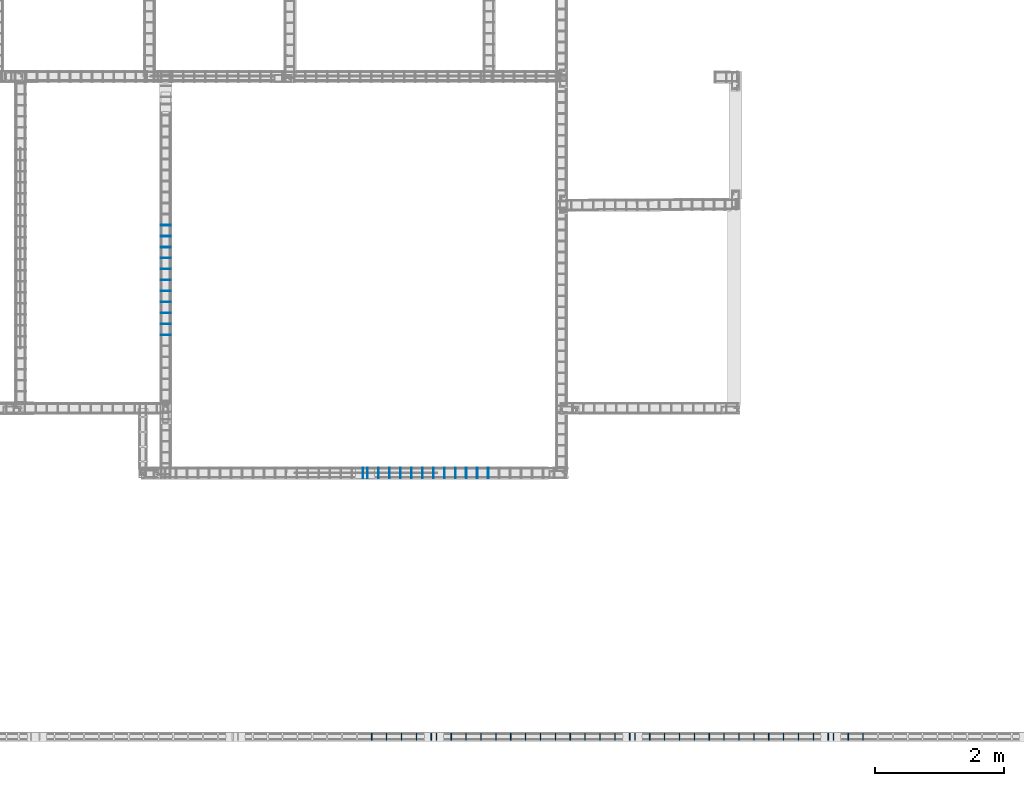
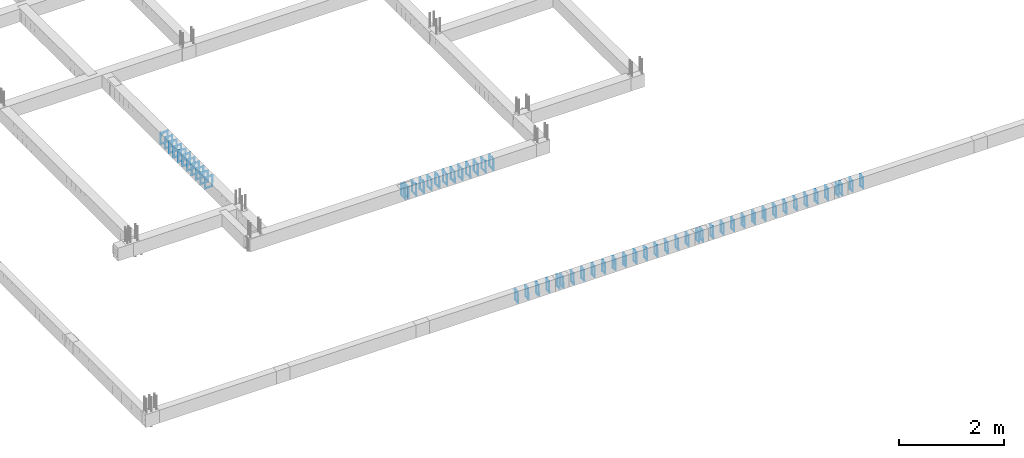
# One storey, part 22 of 150: 60 reinforcing bars.
"""IFC4 building model written with IfcOpenShell, lengths in centimetres."""

from ifc_helpers import new_model, entity, si_unit, derived_unit, frame, origin_with_axes, place, context, project, spatial, source, transform, mapped, element, save


model = new_model("IFC4")

# Units and contexts
model_context = context("Model", 3, precision=1e-05, world=origin_with_axes(), identifier="Body")
ifc_project = project(units=[si_unit("LENGTHUNIT", "METRE", prefix="CENTI"), si_unit("VOLUMEUNIT", "CUBIC_METRE"), si_unit("AREAUNIT", "SQUARE_METRE"), si_unit("POWERUNIT", "WATT"), si_unit("LUMINOUSFLUXUNIT", "LUMEN"), si_unit("ELECTRICCURRENTUNIT", "AMPERE"), si_unit("PRESSUREUNIT", "PASCAL", prefix="KILO"), si_unit("MASSUNIT", "GRAM", prefix="KILO"), si_unit("PLANEANGLEUNIT", "RADIAN"), derived_unit("VOLUMETRICFLOWRATEUNIT", [(si_unit("LENGTHUNIT", "METRE"), 3), (si_unit("TIMEUNIT", "SECOND"), -1)])], contexts=[model_context])

# Site, building, storey
site_placement = place(None, frame((-4000.0, 0.0, 0.0), z_axis=(0.0, 0.0, 1.0), x_axis=(1.0, 0.0, 0.0)))
site = spatial("IfcSite", under=ifc_project, at=site_placement, Name="PADRÃO")
building_placement = place(site_placement, frame((0.0, 0.0, -14.0)))
building = spatial("IfcBuilding", under=site, at=building_placement, Name="CRECHE PRÉ-ESCOLA TIPO 2")
placement = place(building_placement, origin_with_axes())
storey_placement = place(placement, frame((0.0, 0.0, 30.0), z_axis=(0.0, 0.0, 1.0), x_axis=(1.0, 0.0, 0.0)))
storey = spatial("IfcBuildingStorey", under=building, at=storey_placement, Name="VIGA BALDRAME", CompositionType="ELEMENT", Elevation=16.0)

# Reinforcing bars
shared_shape_1 = source(origin_with_axes(), model_context, "Body", "AdvancedSweptSolid", [
    entity("IfcSweptDiskSolid", entity("IfcCompositeCurve", [entity("IfcCompositeCurveSegment", "CONTINUOUS", True, entity("IfcPolyline", [entity("IfcCartesianPoint", [2.0, -6.0, 0.0]), entity("IfcCartesianPoint", [2.0, 0.0, 0.0])])), entity("IfcCompositeCurveSegment", "CONTINUOUS", True, entity("IfcPolyline", [entity("IfcCartesianPoint", [2.0, 0.0, 0.0]), entity("IfcCartesianPoint", [0.0, 0.0, 0.0])])), entity("IfcCompositeCurveSegment", "CONTINUOUS", True, entity("IfcPolyline", [entity("IfcCartesianPoint", [0.0, 0.0, 0.0]), entity("IfcCartesianPoint", [0.0, -25.5, 0.0])])), entity("IfcCompositeCurveSegment", "CONTINUOUS", True, entity("IfcPolyline", [entity("IfcCartesianPoint", [0.0, -25.5, 0.0]), entity("IfcCartesianPoint", [15.5, -25.5, 0.0])])), entity("IfcCompositeCurveSegment", "CONTINUOUS", True, entity("IfcPolyline", [entity("IfcCartesianPoint", [15.5, -25.5, 0.0]), entity("IfcCartesianPoint", [15.5, 0.0, 0.5])])), entity("IfcCompositeCurveSegment", "CONTINUOUS", True, entity("IfcPolyline", [entity("IfcCartesianPoint", [15.5, 0.0, 0.5]), entity("IfcCartesianPoint", [0.0, 0.0, 0.5])])), entity("IfcCompositeCurveSegment", "CONTINUOUS", True, entity("IfcPolyline", [entity("IfcCartesianPoint", [0.0, 0.0, 0.5]), entity("IfcCartesianPoint", [0.0, -2.0, 0.5])])), entity("IfcCompositeCurveSegment", "CONTINUOUS", True, entity("IfcPolyline", [entity("IfcCartesianPoint", [0.0, -2.0, 0.5]), entity("IfcCartesianPoint", [6.0, -2.0, 0.5])]))], False), 0.25),
])
reinforcing_bar_placement = place(storey_placement, frame((809.110000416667, 425.25, -2.25), z_axis=(-1.0, 0.0, 0.0), x_axis=(0.0, -1.0, 0.0)))
element("IfcReinforcingBar", 1, at=reinforcing_bar_placement, inside=storey, Name="V154 - Estribo", BarLength=0.0, CrossSectionArea=1.9634954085e-05, NominalDiameter=0.5, PredefinedType="MAIN", context=model_context, shape_type="MappedRepresentation", body=[
    mapped(shared_shape_1, transform((0.0, 0.0, 0.0), scale=1.0)),
])
shared_shape_2 = source(origin_with_axes(), model_context, "Body", "AdvancedSweptSolid", [
    entity("IfcSweptDiskSolid", entity("IfcCompositeCurve", [entity("IfcCompositeCurveSegment", "CONTINUOUS", True, entity("IfcPolyline", [entity("IfcCartesianPoint", [2.0, -6.0, 0.0]), entity("IfcCartesianPoint", [2.0, 0.0, 0.0])])), entity("IfcCompositeCurveSegment", "CONTINUOUS", True, entity("IfcPolyline", [entity("IfcCartesianPoint", [2.0, 0.0, 0.0]), entity("IfcCartesianPoint", [0.0, 0.0, 0.0])])), entity("IfcCompositeCurveSegment", "CONTINUOUS", True, entity("IfcPolyline", [entity("IfcCartesianPoint", [0.0, 0.0, 0.0]), entity("IfcCartesianPoint", [0.0, -25.5, 0.0])])), entity("IfcCompositeCurveSegment", "CONTINUOUS", True, entity("IfcPolyline", [entity("IfcCartesianPoint", [0.0, -25.5, 0.0]), entity("IfcCartesianPoint", [15.5, -25.5, 0.0])])), entity("IfcCompositeCurveSegment", "CONTINUOUS", True, entity("IfcPolyline", [entity("IfcCartesianPoint", [15.5, -25.5, 0.0]), entity("IfcCartesianPoint", [15.5, 0.0, 0.5])])), entity("IfcCompositeCurveSegment", "CONTINUOUS", True, entity("IfcPolyline", [entity("IfcCartesianPoint", [15.5, 0.0, 0.5]), entity("IfcCartesianPoint", [0.0, 0.0, 0.5])])), entity("IfcCompositeCurveSegment", "CONTINUOUS", True, entity("IfcPolyline", [entity("IfcCartesianPoint", [0.0, 0.0, 0.5]), entity("IfcCartesianPoint", [0.0, -2.0, 0.5])])), entity("IfcCompositeCurveSegment", "CONTINUOUS", True, entity("IfcPolyline", [entity("IfcCartesianPoint", [0.0, -2.0, 0.5]), entity("IfcCartesianPoint", [6.0, -2.0, 0.5])]))], False), 0.25),
])
for number, where, z_axis, x_axis, name in (
    (2, (1002.75499958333, 425.26, -2.25), (-1.0, 0.0, 0.0), (0.0, -1.0, 0.0), "V154 - Estribo"),
    (3, (985.754999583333, 425.26, -2.25), (-1.0, 0.0, 0.0), (0.0, -1.0, 0.0), "V154 - Estribo"),
    (4, (968.754999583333, 425.26, -2.25), (-1.0, 0.0, 0.0), (0.0, -1.0, 0.0), "V154 - Estribo"),
    (5, (951.754999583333, 425.26, -2.25), (-1.0, 0.0, 0.0), (0.0, -1.0, 0.0), "V154 - Estribo"),
    (6, (934.754999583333, 425.26, -2.25), (-1.0, 0.0, 0.0), (0.0, -1.0, 0.0), "V154 - Estribo"),
    (7, (917.754999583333, 425.26, -2.25), (-1.0, 0.0, 0.0), (0.0, -1.0, 0.0), "V154 - Estribo"),
    (8, (900.754999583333, 425.26, -2.25), (-1.0, 0.0, 0.0), (0.0, -1.0, 0.0), "V154 - Estribo"),
    (9, (883.754999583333, 425.26, -2.25), (-1.0, 0.0, 0.0), (0.0, -1.0, 0.0), "V154 - Estribo"),
    (10, (866.754999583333, 425.26, -2.25), (-1.0, 0.0, 0.0), (0.0, -1.0, 0.0), "V154 - Estribo"),
    (11, (849.754999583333, 425.26, -2.25), (-1.0, 0.0, 0.0), (0.0, -1.0, 0.0), "V154 - Estribo"),
    (12, (832.754999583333, 425.26, -2.25), (-1.0, 0.0, 0.0), (0.0, -1.0, 0.0), "V154 - Estribo"),
    (13, (815.754999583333, 425.26, -2.25), (-1.0, 0.0, 0.0), (0.0, -1.0, 0.0), "V154 - Estribo"),
):
    element("IfcReinforcingBar", number, at=place(storey_placement, frame(where, z_axis=z_axis, x_axis=x_axis)), inside=storey, Name=name, BarLength=0.0, CrossSectionArea=1.9634954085e-05, NominalDiameter=0.5, PredefinedType="MAIN", context=model_context, shape_type="MappedRepresentation", body=[
        mapped(shared_shape_2, transform((0.0, 0.0, 0.0), scale=1.0)),
    ])
shared_shape_3 = source(origin_with_axes(), model_context, "Body", "AdvancedSweptSolid", [
    entity("IfcSweptDiskSolid", entity("IfcCompositeCurve", [entity("IfcCompositeCurveSegment", "CONTINUOUS", True, entity("IfcPolyline", [entity("IfcCartesianPoint", [2.0, -6.0, 0.0]), entity("IfcCartesianPoint", [2.0, 0.0, 0.0])])), entity("IfcCompositeCurveSegment", "CONTINUOUS", True, entity("IfcPolyline", [entity("IfcCartesianPoint", [2.0, 0.0, 0.0]), entity("IfcCartesianPoint", [0.0, 0.0, 0.0])])), entity("IfcCompositeCurveSegment", "CONTINUOUS", True, entity("IfcPolyline", [entity("IfcCartesianPoint", [0.0, 0.0, 0.0]), entity("IfcCartesianPoint", [0.0, -25.5, 0.0])])), entity("IfcCompositeCurveSegment", "CONTINUOUS", True, entity("IfcPolyline", [entity("IfcCartesianPoint", [0.0, -25.5, 0.0]), entity("IfcCartesianPoint", [15.5, -25.5, 0.0])])), entity("IfcCompositeCurveSegment", "CONTINUOUS", True, entity("IfcPolyline", [entity("IfcCartesianPoint", [15.5, -25.5, 0.0]), entity("IfcCartesianPoint", [15.5, 0.0, 0.5])])), entity("IfcCompositeCurveSegment", "CONTINUOUS", True, entity("IfcPolyline", [entity("IfcCartesianPoint", [15.5, 0.0, 0.5]), entity("IfcCartesianPoint", [0.0, 0.0, 0.5])])), entity("IfcCompositeCurveSegment", "CONTINUOUS", True, entity("IfcPolyline", [entity("IfcCartesianPoint", [0.0, 0.0, 0.5]), entity("IfcCartesianPoint", [0.0, -2.0, 0.5])])), entity("IfcCompositeCurveSegment", "CONTINUOUS", True, entity("IfcPolyline", [entity("IfcCartesianPoint", [0.0, -2.0, 0.5]), entity("IfcCartesianPoint", [6.0, -2.0, 0.5])]))], False), 0.25),
])
for number, where, z_axis, x_axis, name in (
    (14, (495.82, 784.01, -2.25), (0.0, -1.0, 0.0), (1.0, 0.0, 0.0), "V166 - Estribo"),
    (15, (495.82, 733.01, -2.25), (0.0, -1.0, 0.0), (1.0, 0.0, 0.0), "V166 - Estribo"),
    (16, (495.82, 750.01, -2.25), (0.0, -1.0, 0.0), (1.0, 0.0, 0.0), "V166 - Estribo"),
    (17, (495.82, 767.01, -2.25), (0.0, -1.0, 0.0), (1.0, 0.0, 0.0), "V166 - Estribo"),
    (18, (495.82, 801.01, -2.25), (0.0, -1.0, 0.0), (1.0, 0.0, 0.0), "V166 - Estribo"),
    (19, (495.82, 682.01, -2.25), (0.0, -1.0, 0.0), (1.0, 0.0, 0.0), "V166 - Estribo"),
    (20, (495.82, 665.01, -2.25), (0.0, -1.0, 0.0), (1.0, 0.0, 0.0), "V166 - Estribo"),
    (21, (495.82, 648.01, -2.25), (0.0, -1.0, 0.0), (1.0, 0.0, 0.0), "V166 - Estribo"),
    (22, (495.82, 631.01, -2.25), (0.0, -1.0, 0.0), (1.0, 0.0, 0.0), "V166 - Estribo"),
    (23, (495.82, 716.01, -2.25), (0.0, -1.0, 0.0), (1.0, 0.0, 0.0), "V166 - Estribo"),
    (24, (495.82, 699.01, -2.25), (0.0, -1.0, 0.0), (1.0, 0.0, 0.0), "V166 - Estribo"),
):
    element("IfcReinforcingBar", number, at=place(storey_placement, frame(where, z_axis=z_axis, x_axis=x_axis)), inside=storey, Name=name, BarLength=0.0, CrossSectionArea=1.9634954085e-05, NominalDiameter=0.5, PredefinedType="MAIN", context=model_context, shape_type="MappedRepresentation", body=[
        mapped(shared_shape_3, transform((0.0, 0.0, 0.0), scale=1.0)),
    ])
shared_shape_4 = source(origin_with_axes(), model_context, "Body", "AdvancedSweptSolid", [
    entity("IfcSweptDiskSolid", entity("IfcCompositeCurve", [entity("IfcCompositeCurveSegment", "CONTINUOUS", True, entity("IfcPolyline", [entity("IfcCartesianPoint", [2.0, -6.0, 0.0]), entity("IfcCartesianPoint", [2.0, 0.0, 0.0])])), entity("IfcCompositeCurveSegment", "CONTINUOUS", True, entity("IfcPolyline", [entity("IfcCartesianPoint", [2.0, 0.0, 0.0]), entity("IfcCartesianPoint", [0.0, 0.0, 0.0])])), entity("IfcCompositeCurveSegment", "CONTINUOUS", True, entity("IfcPolyline", [entity("IfcCartesianPoint", [0.0, 0.0, 0.0]), entity("IfcCartesianPoint", [0.0, -25.5, 0.0])])), entity("IfcCompositeCurveSegment", "CONTINUOUS", True, entity("IfcPolyline", [entity("IfcCartesianPoint", [0.0, -25.5, 0.0]), entity("IfcCartesianPoint", [10.5, -25.5, 0.0])])), entity("IfcCompositeCurveSegment", "CONTINUOUS", True, entity("IfcPolyline", [entity("IfcCartesianPoint", [10.5, -25.5, 0.0]), entity("IfcCartesianPoint", [10.5, 0.0, 0.5])])), entity("IfcCompositeCurveSegment", "CONTINUOUS", True, entity("IfcPolyline", [entity("IfcCartesianPoint", [10.5, 0.0, 0.5]), entity("IfcCartesianPoint", [0.0, 0.0, 0.5])])), entity("IfcCompositeCurveSegment", "CONTINUOUS", True, entity("IfcPolyline", [entity("IfcCartesianPoint", [0.0, 0.0, 0.5]), entity("IfcCartesianPoint", [0.0, -2.0, 0.5])])), entity("IfcCompositeCurveSegment", "CONTINUOUS", True, entity("IfcPolyline", [entity("IfcCartesianPoint", [0.0, -2.0, 0.5]), entity("IfcCartesianPoint", [6.0, -2.0, 0.5])]))], False), 0.25),
])
for number, where, z_axis, x_axis, name in (
    (25, (914.5, 14.75, -2.25), (-1.0, 0.0, 0.0), (0.0, -1.0, 0.0), "V158 - Estribo"),
    (26, (891.5, 14.75, -2.25), (-1.0, 0.0, 0.0), (0.0, -1.0, 0.0), "V158 - Estribo"),
    (27, (868.5, 14.75, -2.25), (-1.0, 0.0, 0.0), (0.0, -1.0, 0.0), "V158 - Estribo"),
    (28, (845.5, 14.75, -2.25), (-1.0, 0.0, 0.0), (0.0, -1.0, 0.0), "V158 - Estribo"),
    (29, (822.5, 14.75, -2.25), (-1.0, 0.0, 0.0), (0.0, -1.0, 0.0), "V158 - Estribo"),
):
    element("IfcReinforcingBar", number, at=place(storey_placement, frame(where, z_axis=z_axis, x_axis=x_axis)), inside=storey, Name=name, BarLength=0.0, CrossSectionArea=1.9634954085e-05, NominalDiameter=0.5, PredefinedType="MAIN", context=model_context, shape_type="MappedRepresentation", body=[
        mapped(shared_shape_4, transform((0.0, 0.0, 0.0), scale=1.0)),
    ])
shared_shape_5 = source(origin_with_axes(), model_context, "Body", "AdvancedSweptSolid", [
    entity("IfcSweptDiskSolid", entity("IfcCompositeCurve", [entity("IfcCompositeCurveSegment", "CONTINUOUS", True, entity("IfcPolyline", [entity("IfcCartesianPoint", [2.0, -6.0, 0.0]), entity("IfcCartesianPoint", [2.0, 0.0, 0.0])])), entity("IfcCompositeCurveSegment", "CONTINUOUS", True, entity("IfcPolyline", [entity("IfcCartesianPoint", [2.0, 0.0, 0.0]), entity("IfcCartesianPoint", [0.0, 0.0, 0.0])])), entity("IfcCompositeCurveSegment", "CONTINUOUS", True, entity("IfcPolyline", [entity("IfcCartesianPoint", [0.0, 0.0, 0.0]), entity("IfcCartesianPoint", [0.0, -25.5, 0.0])])), entity("IfcCompositeCurveSegment", "CONTINUOUS", True, entity("IfcPolyline", [entity("IfcCartesianPoint", [0.0, -25.5, 0.0]), entity("IfcCartesianPoint", [10.5, -25.5, 0.0])])), entity("IfcCompositeCurveSegment", "CONTINUOUS", True, entity("IfcPolyline", [entity("IfcCartesianPoint", [10.5, -25.5, 0.0]), entity("IfcCartesianPoint", [10.5, 0.0, 0.5])])), entity("IfcCompositeCurveSegment", "CONTINUOUS", True, entity("IfcPolyline", [entity("IfcCartesianPoint", [10.5, 0.0, 0.5]), entity("IfcCartesianPoint", [0.0, 0.0, 0.5])])), entity("IfcCompositeCurveSegment", "CONTINUOUS", True, entity("IfcPolyline", [entity("IfcCartesianPoint", [0.0, 0.0, 0.5]), entity("IfcCartesianPoint", [0.0, -2.0, 0.5])])), entity("IfcCompositeCurveSegment", "CONTINUOUS", True, entity("IfcPolyline", [entity("IfcCartesianPoint", [0.0, -2.0, 0.5]), entity("IfcCartesianPoint", [6.0, -2.0, 0.5])]))], False), 0.25),
])
for number, where, z_axis, x_axis, name in (
    (30, (1152.5, 14.75, -2.25), (-1.0, 0.0, 0.0), (0.0, -1.0, 0.0), "V158 - Estribo"),
    (31, (1129.5, 14.75, -2.25), (-1.0, 0.0, 0.0), (0.0, -1.0, 0.0), "V158 - Estribo"),
    (32, (1106.5, 14.75, -2.25), (-1.0, 0.0, 0.0), (0.0, -1.0, 0.0), "V158 - Estribo"),
    (33, (1083.5, 14.75, -2.25), (-1.0, 0.0, 0.0), (0.0, -1.0, 0.0), "V158 - Estribo"),
    (34, (1060.5, 14.75, -2.25), (-1.0, 0.0, 0.0), (0.0, -1.0, 0.0), "V158 - Estribo"),
    (35, (1037.5, 14.75, -2.25), (-1.0, 0.0, 0.0), (0.0, -1.0, 0.0), "V158 - Estribo"),
    (36, (1014.5, 14.75, -2.25), (-1.0, 0.0, 0.0), (0.0, -1.0, 0.0), "V158 - Estribo"),
    (37, (991.5, 14.75, -2.25), (-1.0, 0.0, 0.0), (0.0, -1.0, 0.0), "V158 - Estribo"),
    (38, (968.5, 14.75, -2.25), (-1.0, 0.0, 0.0), (0.0, -1.0, 0.0), "V158 - Estribo"),
    (39, (945.5, 14.75, -2.25), (-1.0, 0.0, 0.0), (0.0, -1.0, 0.0), "V158 - Estribo"),
    (40, (922.5, 14.75, -2.25), (-1.0, 0.0, 0.0), (0.0, -1.0, 0.0), "V158 - Estribo"),
    (41, (1221.5, 14.75, -2.25), (-1.0, 0.0, 0.0), (0.0, -1.0, 0.0), "V158 - Estribo"),
    (42, (1198.5, 14.75, -2.25), (-1.0, 0.0, 0.0), (0.0, -1.0, 0.0), "V158 - Estribo"),
    (43, (1175.5, 14.75, -2.25), (-1.0, 0.0, 0.0), (0.0, -1.0, 0.0), "V158 - Estribo"),
):
    element("IfcReinforcingBar", number, at=place(storey_placement, frame(where, z_axis=z_axis, x_axis=x_axis)), inside=storey, Name=name, BarLength=0.0, CrossSectionArea=1.9634954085e-05, NominalDiameter=0.5, PredefinedType="MAIN", context=model_context, shape_type="MappedRepresentation", body=[
        mapped(shared_shape_5, transform((0.0, 0.0, 0.0), scale=1.0)),
    ])
shared_shape_6 = source(origin_with_axes(), model_context, "Body", "AdvancedSweptSolid", [
    entity("IfcSweptDiskSolid", entity("IfcCompositeCurve", [entity("IfcCompositeCurveSegment", "CONTINUOUS", True, entity("IfcPolyline", [entity("IfcCartesianPoint", [2.0, -6.0, 0.0]), entity("IfcCartesianPoint", [2.0, 0.0, 0.0])])), entity("IfcCompositeCurveSegment", "CONTINUOUS", True, entity("IfcPolyline", [entity("IfcCartesianPoint", [2.0, 0.0, 0.0]), entity("IfcCartesianPoint", [0.0, 0.0, 0.0])])), entity("IfcCompositeCurveSegment", "CONTINUOUS", True, entity("IfcPolyline", [entity("IfcCartesianPoint", [0.0, 0.0, 0.0]), entity("IfcCartesianPoint", [0.0, -25.5, 0.0])])), entity("IfcCompositeCurveSegment", "CONTINUOUS", True, entity("IfcPolyline", [entity("IfcCartesianPoint", [0.0, -25.5, 0.0]), entity("IfcCartesianPoint", [10.5, -25.5, 0.0])])), entity("IfcCompositeCurveSegment", "CONTINUOUS", True, entity("IfcPolyline", [entity("IfcCartesianPoint", [10.5, -25.5, 0.0]), entity("IfcCartesianPoint", [10.5, 0.0, 0.5])])), entity("IfcCompositeCurveSegment", "CONTINUOUS", True, entity("IfcPolyline", [entity("IfcCartesianPoint", [10.5, 0.0, 0.5]), entity("IfcCartesianPoint", [0.0, 0.0, 0.5])])), entity("IfcCompositeCurveSegment", "CONTINUOUS", True, entity("IfcPolyline", [entity("IfcCartesianPoint", [0.0, 0.0, 0.5]), entity("IfcCartesianPoint", [0.0, -2.0, 0.5])])), entity("IfcCompositeCurveSegment", "CONTINUOUS", True, entity("IfcPolyline", [entity("IfcCartesianPoint", [0.0, -2.0, 0.5]), entity("IfcCartesianPoint", [6.0, -2.0, 0.5])]))], False), 0.25),
])
for number, where, z_axis, x_axis, name in (
    (44, (1298.5, 14.75, -2.25), (-1.0, 0.0, 0.0), (0.0, -1.0, 0.0), "V158 - Estribo"),
    (45, (1436.5, 14.75, -2.25), (-1.0, 0.0, 0.0), (0.0, -1.0, 0.0), "V158 - Estribo"),
    (46, (1459.5, 14.75, -2.25), (-1.0, 0.0, 0.0), (0.0, -1.0, 0.0), "V158 - Estribo"),
    (47, (1482.5, 14.75, -2.25), (-1.0, 0.0, 0.0), (0.0, -1.0, 0.0), "V158 - Estribo"),
    (48, (1505.5, 14.75, -2.25), (-1.0, 0.0, 0.0), (0.0, -1.0, 0.0), "V158 - Estribo"),
    (49, (1528.5, 14.75, -2.25), (-1.0, 0.0, 0.0), (0.0, -1.0, 0.0), "V158 - Estribo"),
    (50, (1321.5, 14.75, -2.25), (-1.0, 0.0, 0.0), (0.0, -1.0, 0.0), "V158 - Estribo"),
    (51, (1275.5, 14.75, -2.25), (-1.0, 0.0, 0.0), (0.0, -1.0, 0.0), "V158 - Estribo"),
    (52, (1252.5, 14.75, -2.25), (-1.0, 0.0, 0.0), (0.0, -1.0, 0.0), "V158 - Estribo"),
    (53, (1229.5, 14.75, -2.25), (-1.0, 0.0, 0.0), (0.0, -1.0, 0.0), "V158 - Estribo"),
    (54, (1344.5, 14.75, -2.25), (-1.0, 0.0, 0.0), (0.0, -1.0, 0.0), "V158 - Estribo"),
    (55, (1367.5, 14.75, -2.25), (-1.0, 0.0, 0.0), (0.0, -1.0, 0.0), "V158 - Estribo"),
    (56, (1390.5, 14.75, -2.25), (-1.0, 0.0, 0.0), (0.0, -1.0, 0.0), "V158 - Estribo"),
    (57, (1413.5, 14.75, -2.25), (-1.0, 0.0, 0.0), (0.0, -1.0, 0.0), "V158 - Estribo"),
):
    element("IfcReinforcingBar", number, at=place(storey_placement, frame(where, z_axis=z_axis, x_axis=x_axis)), inside=storey, Name=name, BarLength=0.0, CrossSectionArea=1.9634954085e-05, NominalDiameter=0.5, PredefinedType="MAIN", context=model_context, shape_type="MappedRepresentation", body=[
        mapped(shared_shape_6, transform((0.0, 0.0, 0.0), scale=1.0)),
    ])
shared_shape_7 = source(origin_with_axes(), model_context, "Body", "AdvancedSweptSolid", [
    entity("IfcSweptDiskSolid", entity("IfcCompositeCurve", [entity("IfcCompositeCurveSegment", "CONTINUOUS", True, entity("IfcPolyline", [entity("IfcCartesianPoint", [2.0, -6.0, 0.0]), entity("IfcCartesianPoint", [2.0, 0.0, 0.0])])), entity("IfcCompositeCurveSegment", "CONTINUOUS", True, entity("IfcPolyline", [entity("IfcCartesianPoint", [2.0, 0.0, 0.0]), entity("IfcCartesianPoint", [0.0, 0.0, 0.0])])), entity("IfcCompositeCurveSegment", "CONTINUOUS", True, entity("IfcPolyline", [entity("IfcCartesianPoint", [0.0, 0.0, 0.0]), entity("IfcCartesianPoint", [0.0, -25.5, 0.0])])), entity("IfcCompositeCurveSegment", "CONTINUOUS", True, entity("IfcPolyline", [entity("IfcCartesianPoint", [0.0, -25.5, 0.0]), entity("IfcCartesianPoint", [10.5, -25.5, 0.0])])), entity("IfcCompositeCurveSegment", "CONTINUOUS", True, entity("IfcPolyline", [entity("IfcCartesianPoint", [10.5, -25.5, 0.0]), entity("IfcCartesianPoint", [10.5, 0.0, 0.5])])), entity("IfcCompositeCurveSegment", "CONTINUOUS", True, entity("IfcPolyline", [entity("IfcCartesianPoint", [10.5, 0.0, 0.5]), entity("IfcCartesianPoint", [0.0, 0.0, 0.5])])), entity("IfcCompositeCurveSegment", "CONTINUOUS", True, entity("IfcPolyline", [entity("IfcCartesianPoint", [0.0, 0.0, 0.5]), entity("IfcCartesianPoint", [0.0, -2.0, 0.5])])), entity("IfcCompositeCurveSegment", "CONTINUOUS", True, entity("IfcPolyline", [entity("IfcCartesianPoint", [0.0, -2.0, 0.5]), entity("IfcCartesianPoint", [6.0, -2.0, 0.5])]))], False), 0.25),
])
for number, where, z_axis, x_axis, name in (
    (58, (1536.5, 14.75, -2.25), (-1.0, 0.0, 0.0), (0.0, -1.0, 0.0), "V158 - Estribo"),
    (59, (1559.5, 14.75, -2.25), (-1.0, 0.0, 0.0), (0.0, -1.0, 0.0), "V158 - Estribo"),
    (60, (1582.5, 14.75, -2.25), (-1.0, 0.0, 0.0), (0.0, -1.0, 0.0), "V158 - Estribo"),
):
    element("IfcReinforcingBar", number, at=place(storey_placement, frame(where, z_axis=z_axis, x_axis=x_axis)), inside=storey, Name=name, BarLength=0.0, CrossSectionArea=1.9634954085e-05, NominalDiameter=0.5, PredefinedType="MAIN", context=model_context, shape_type="MappedRepresentation", body=[
        mapped(shared_shape_7, transform((0.0, 0.0, 0.0), scale=1.0)),
    ])

save(model, "model.ifc")
